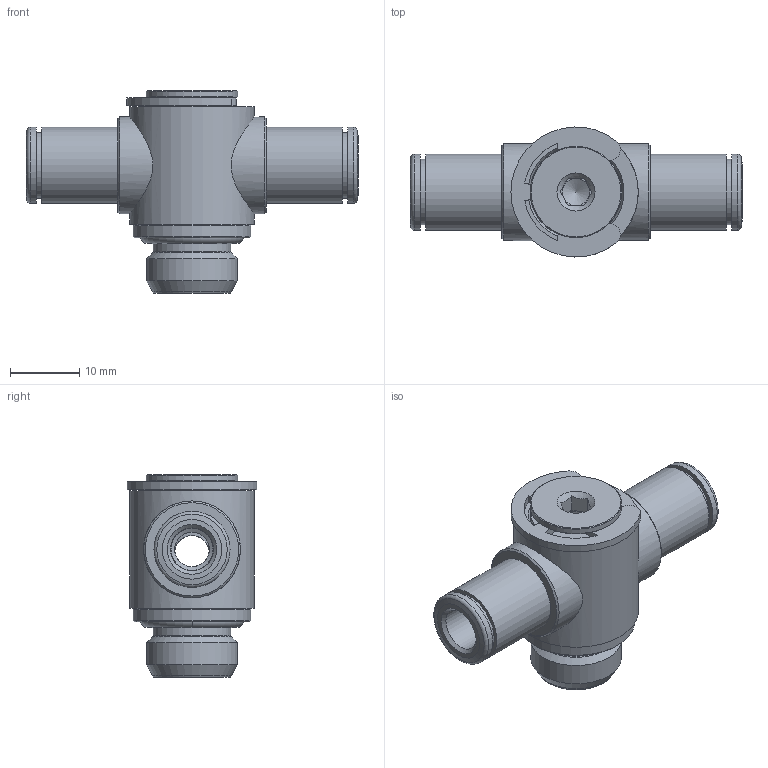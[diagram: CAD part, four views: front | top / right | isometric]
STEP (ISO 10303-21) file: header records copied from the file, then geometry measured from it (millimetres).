
FILE_DESCRIPTION(('Bauteilbeschreibung','HiCAD-Model','HiCAD-STEP-TRANSLATION','Bauteilbeschreibung'),'2;1');
FILE_NAME('B:/ABGLEICH/ZEICHNUNGEN/STEP FÜR INTERNET/STEP/201507_IPSO_016_6_1-4.STP','2011-08-19T11:23:01+00:00',('Konstrukteur'),('Konstrukteur Firma GmbH'),' HiCAD neXt 2008, Step 3.1.1401.2J ','HiCAD neXt 2008','confidential');
FILE_SCHEMA(('AUTOMOTIVE_DESIGN { 1 2 10303 214 0 1 1 1 }'));
Length unit declared in the file: millimetre
Products named in the file (9): A01507_IPSO_016_6_1_4; OR 11_11X1_78; A00053; DR6_1_NEU; DR6010NEU; R201306_N; A14503; A145030; G 1_4
Assembly tree (8 placements, depth 3):
  A01507_IPSO_016_6_1_4
    OR 11_11X1_78
    A00053
    DR6_1_NEU
    DR6010NEU
    R201306_N
    A14503
    A145030
      G 1_4
Bounding box: 48 x 18.79 x 29.3 mm (x, y, z)
Volume: 6650.5 mm3; surface area: 8057.8 mm2
Topology: 7 solids, 7 shells, 130 faces, 285 edges, 175 vertices
Faces by surface type: cylinder 44, plane 41, cone 36, torus 9
Full cylindrical faces by diameter (mm): 4 x1, 5 x4, 6.1 x2, 6.2 x2, 7.8 x1, 8.3 x2, 9 x3, 9.5 x2, 9.6 x2, 11 x4, 11.2 x1, 11.445 x2, 13.157 x1, 13.2 x2, 13.3 x2, 14 x3, 17 x1, 18 x1
Entity records: 9339 total; most frequent: CARTESIAN_POINT 5800, DIRECTION 578, ORIENTED_EDGE 366, AXIS2_PLACEMENT_3D 267, EDGE_LOOP 234, EDGE_CURVE 183, COLOUR_RGB 170, PRESENTATION_STYLE_ASSIGNMENT 170
